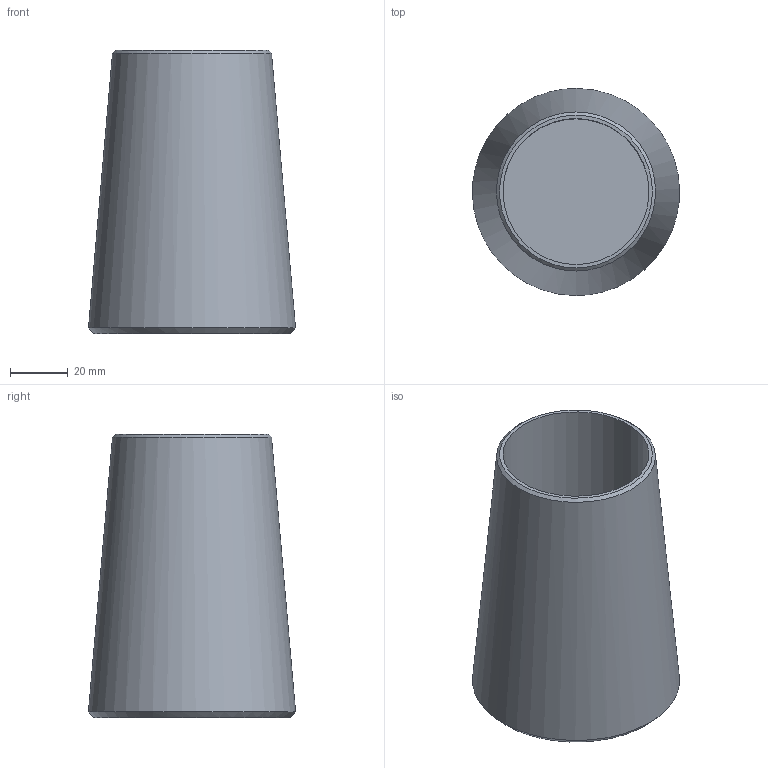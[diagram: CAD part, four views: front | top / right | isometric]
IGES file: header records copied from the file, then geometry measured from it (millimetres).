
Global section: file name: 520-048-KMU; native system: Autodesk Inventor 2016; preprocessor: unknown; author: BAYR; date: 20200618.122826; units: millimetre
Bounding box: 71.61 x 71.65 x 98 mm (x, y, z)
Volume: 162839.2 mm3; surface area: 37399 mm2
Topology: 1 solids, 1 shells, 7 faces, 14 edges, 10 vertices
Faces by surface type: bspline 7
